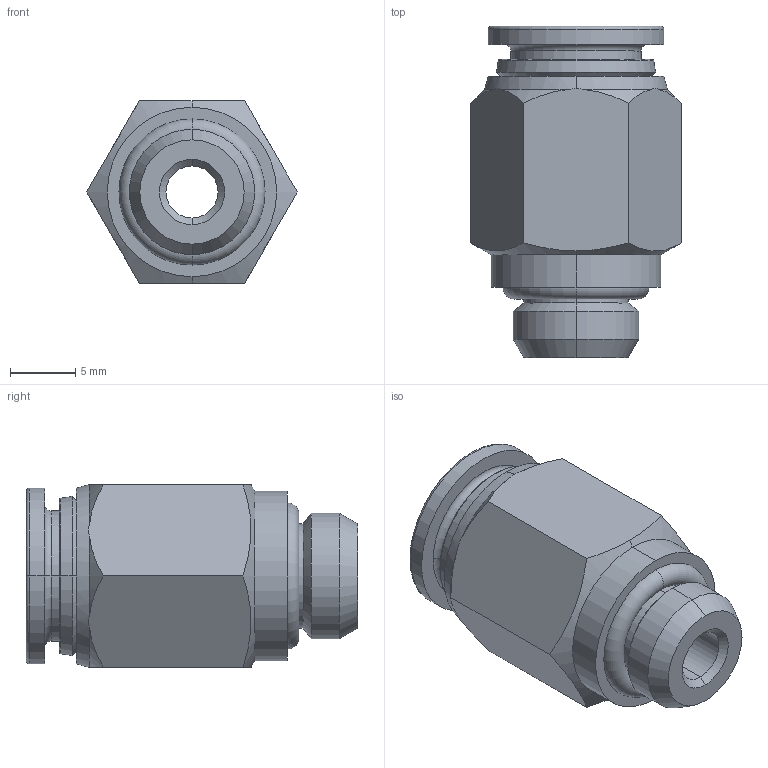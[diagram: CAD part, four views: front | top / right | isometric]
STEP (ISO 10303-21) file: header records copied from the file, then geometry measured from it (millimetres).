
FILE_DESCRIPTION (( 'STEP AP214' ), '1' );
FILE_NAME ('5902000005A.STEP', '2024-10-22T06:29:08', ( '' ), ( '' ), 'SwSTEP 2.0', 'SolidWorks 2020', '' );
FILE_SCHEMA (( 'AUTOMOTIVE_DESIGN' ));
Length unit declared in the file: millimetre
Products named in the file (1): 5902000005A
Bounding box: 16.17 x 25.45 x 14 mm (x, y, z)
Volume: 2435.3 mm3; surface area: 2007.5 mm2
Topology: 1 solids, 1 shells, 104 faces, 252 edges, 160 vertices
Faces by surface type: bspline 32, plane 26, cone 24, cylinder 14, torus 8
Entity records: 5764 total; most frequent: CARTESIAN_POINT 2369, ORIENTED_EDGE 504, DIRECTION 372, EDGE_CURVE 252, VERTEX_POINT 160, AXIS2_PLACEMENT_3D 139, EDGE_LOOP 116, UNCERTAINTY_MEASURE_WITH_UNIT 107
